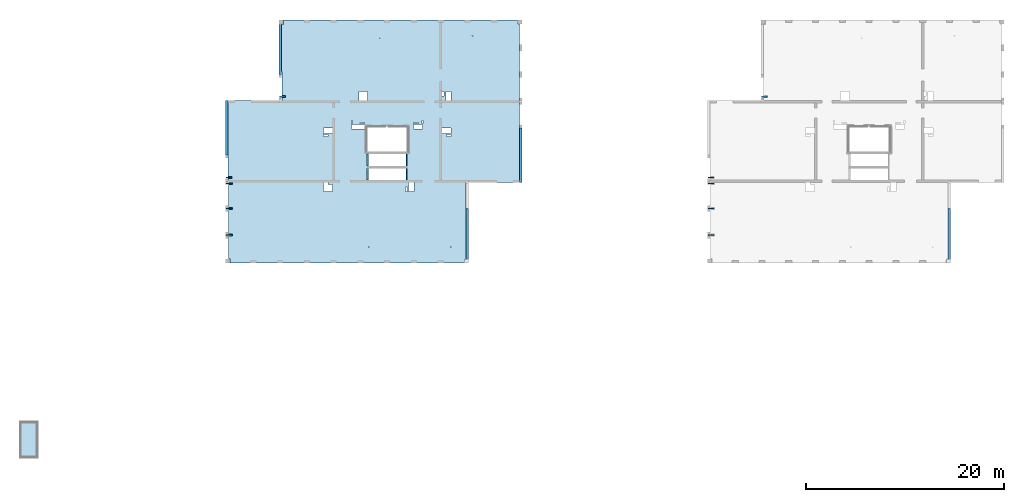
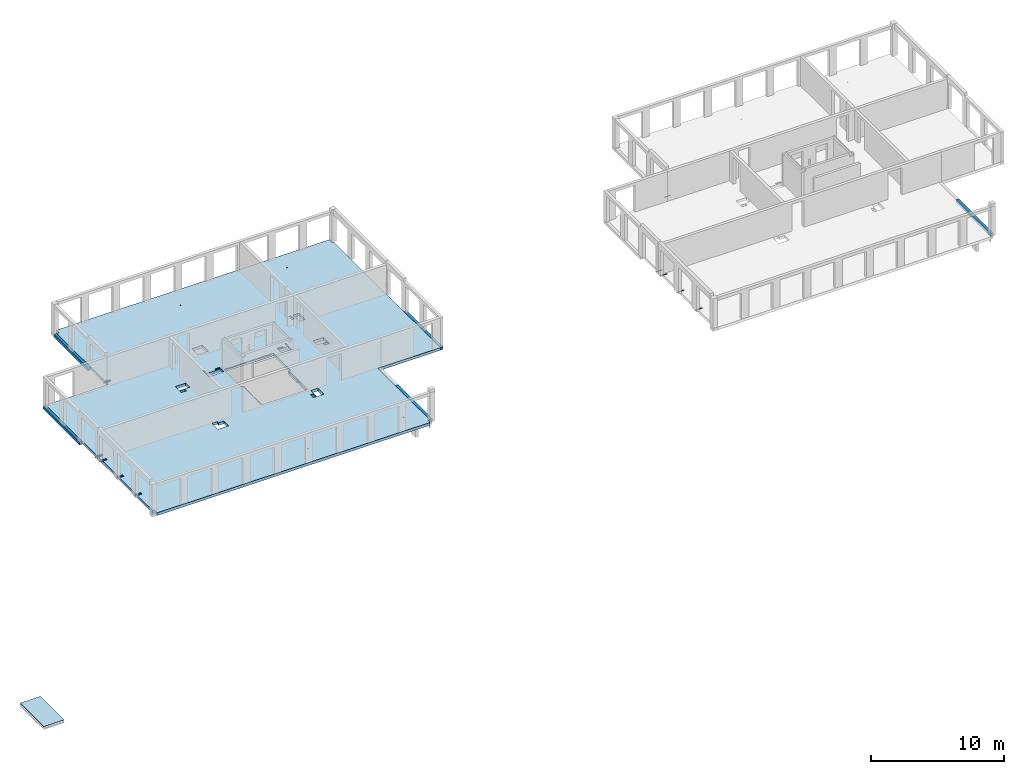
# One storey, part 2 of 12: 10 beams, 7 slabs, 33 openings.
"""IFC2X3 building model written with IfcOpenShell, lengths in millimetres."""

from ifc_helpers import new_model, entity, si_unit, converted_unit, derived_unit, direction, frame, frame_2d, origin, origin_2d_with_axis, place, context, subcontext, project, spatial, polyline, rectangle, circle, outline, extrude, source, transform, mapped, material, layer, layer_set, layer_usage, type_object, type_shapes, element, save


model = new_model("IFC2X3")

# Units and contexts
model_context = context("Model", 3, precision=0.01, world=origin(), true_north=direction((6.12303176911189e-17, 1.0)))
body_context = subcontext(model_context, "Body", "Model", "MODEL_VIEW")
ifc_project = project(units=[si_unit("LENGTHUNIT", "METRE", prefix="MILLI"), si_unit("AREAUNIT", "SQUARE_METRE"), si_unit("VOLUMEUNIT", "CUBIC_METRE"), converted_unit("PLANEANGLEUNIT", "DEGREE", entity("IfcRatioMeasure", 0.0174532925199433), si_unit("PLANEANGLEUNIT", "RADIAN"), dimensions=[0, 0, 0, 0, 0, 0, 0]), si_unit("MASSUNIT", "GRAM", prefix="KILO"), derived_unit("MASSDENSITYUNIT", [(si_unit("MASSUNIT", "GRAM", prefix="KILO"), 1), (si_unit("LENGTHUNIT", "METRE"), -3)]), si_unit("TIMEUNIT", "SECOND"), si_unit("FREQUENCYUNIT", "HERTZ"), si_unit("THERMODYNAMICTEMPERATUREUNIT", "DEGREE_CELSIUS"), derived_unit("THERMALTRANSMITTANCEUNIT", [(si_unit("MASSUNIT", "GRAM", prefix="KILO"), 1), (si_unit("THERMODYNAMICTEMPERATUREUNIT", "KELVIN"), -1), (si_unit("TIMEUNIT", "SECOND"), -3)]), derived_unit("VOLUMETRICFLOWRATEUNIT", [(si_unit("LENGTHUNIT", "METRE"), 3), (si_unit("TIMEUNIT", "SECOND"), -1)]), si_unit("ELECTRICCURRENTUNIT", "AMPERE"), si_unit("ELECTRICVOLTAGEUNIT", "VOLT"), si_unit("POWERUNIT", "WATT"), si_unit("FORCEUNIT", "NEWTON", prefix="KILO"), si_unit("ILLUMINANCEUNIT", "LUX"), si_unit("LUMINOUSFLUXUNIT", "LUMEN"), si_unit("LUMINOUSINTENSITYUNIT", "CANDELA"), derived_unit("USERDEFINED", [(si_unit("MASSUNIT", "GRAM", prefix="KILO"), -1), (si_unit("LENGTHUNIT", "METRE"), -2), (si_unit("TIMEUNIT", "SECOND"), 3), (si_unit("LUMINOUSFLUXUNIT", "LUMEN"), 1)]), derived_unit("LINEARVELOCITYUNIT", [(si_unit("LENGTHUNIT", "METRE"), 1), (si_unit("TIMEUNIT", "SECOND"), -1)]), si_unit("PRESSUREUNIT", "PASCAL"), derived_unit("USERDEFINED", [(si_unit("LENGTHUNIT", "METRE"), -2), (si_unit("MASSUNIT", "GRAM", prefix="KILO"), 1), (si_unit("TIMEUNIT", "SECOND"), -2)])], contexts=[model_context])

# Site, building, storey
site_placement = place(None, origin())
site = spatial("IfcSite", under=ifc_project, at=site_placement, Name="Default", CompositionType="ELEMENT")
building_placement = place(site_placement, origin())
building = spatial("IfcBuilding", under=site, at=building_placement, Name="niet gebruiken", CompositionType="ELEMENT")
storey_placement = place(building_placement, frame((0.0, 0.0, 21510.0)))
storey = spatial("IfcBuildingStorey", under=building, at=storey_placement, Name="07 zevende verdieping", CompositionType="ELEMENT", Elevation=21510.0)

# Beams
ifc_material_1 = material(Name="NLRS_h2_staal")
beam_type_1 = type_object("IfcBeamType", Name="ligger stripstaal RECT_120x10", PredefinedType="BEAM", material=ifc_material_1)
shared_shape_1 = source(origin(), body_context, "Body", "SweptSolid", [
    extrude(rectangle(XDim=599.999999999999, YDim=120.0, at=origin_2d_with_axis()), frame((0.0, 0.0, -5.0), z_axis=(0.0, 0.0, 1.0), x_axis=(-1.0, 0.0, 0.0)), (0.0, 0.0, 1.0), 9.99999999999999),
    extrude(rectangle(XDim=599.999999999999, YDim=120.0, at=origin_2d_with_axis()), frame((0.0, 0.0, -5.0), z_axis=(0.0, 0.0, 1.0), x_axis=(-1.0, 0.0, 0.0)), (0.0, 0.0, 1.0), 9.99999999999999),
])
type_shapes(beam_type_1, [shared_shape_1])
for number, where, name in (
    (1, (75835.0, 31556.0, -115.0), "NLRS_28.11_SF_WPB_stalen ligger stripstaal_gen:ligger stripstaal RECT_120x10"),
    (2, (75835.0, 34256.0, -115.0), "NLRS_28.11_SF_WPB_stalen ligger stripstaal_gen:ligger stripstaal RECT_120x10"),
    (3, (75835.0, 36766.0, -115.0), "NLRS_28.11_SF_WPB_stalen ligger stripstaal_gen:ligger stripstaal RECT_120x10"),
    (4, (27235.0, 31556.0, -115.0), "NLRS_28.11_SF_WPB_stalen ligger stripstaal_gen:ligger stripstaal RECT_120x10"),
    (5, (27235.0, 34256.0, -115.0), "NLRS_28.11_SF_WPB_stalen ligger stripstaal_gen:ligger stripstaal RECT_120x10"),
    (6, (27235.0, 36766.0, -115.0), "NLRS_28.11_SF_WPB_stalen ligger stripstaal_gen:ligger stripstaal RECT_120x10"),
):
    element("IfcBeam", number, at=place(storey_placement, frame(where)), inside=storey, type_object=beam_type_1, material=ifc_material_1, Name=name, ObjectType="ligger stripstaal RECT_120x10", context=body_context, shape_type="MappedRepresentation", body=[
        mapped(shared_shape_1, transform((0.0, 0.0, 0.0), scale=1.0)),
    ])
beam_type_2 = type_object("IfcBeamType", Name="ligger stripstaal RECT_120x10", PredefinedType="BEAM", material=ifc_material_1)
shared_shape_2 = source(origin(), body_context, "Body", "SweptSolid", [
    extrude(rectangle(XDim=120.0, YDim=600.000000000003, at=origin_2d_with_axis()), frame((0.0, 0.0, -5.0), z_axis=(0.0, 0.0, 1.0), x_axis=(0.0, 1.0, 0.0)), (0.0, 0.0, 1.0), 9.99999999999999),
    extrude(rectangle(XDim=120.0, YDim=600.000000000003, at=origin_2d_with_axis()), frame((0.0, 0.0, -5.0), z_axis=(0.0, 0.0, 1.0), x_axis=(0.0, 1.0, 0.0)), (0.0, 0.0, 1.0), 9.99999999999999),
])
type_shapes(beam_type_2, [shared_shape_2])
for number, where, name in (
    (7, (27235.0, 37386.0, -115.0), "NLRS_28.11_SF_WPB_stalen ligger stripstaal_gen:ligger stripstaal RECT_120x10"),
    (8, (75835.0, 37386.0, -115.0), "NLRS_28.11_SF_WPB_stalen ligger stripstaal_gen:ligger stripstaal RECT_120x10"),
    (9, (32635.0, 45521.0, -115.0), "NLRS_28.11_SF_WPB_stalen ligger stripstaal_gen:ligger stripstaal RECT_120x10"),
    (10, (81235.0, 45521.0, -115.0), "NLRS_28.11_SF_WPB_stalen ligger stripstaal_gen:ligger stripstaal RECT_120x10"),
):
    element("IfcBeam", number, at=place(storey_placement, frame(where)), inside=storey, type_object=beam_type_2, material=ifc_material_1, Name=name, ObjectType="ligger stripstaal RECT_120x10", context=body_context, shape_type="MappedRepresentation", body=[
        mapped(shared_shape_2, transform((0.0, 0.0, 0.0), scale=1.0)),
    ])

# Slab, openings
ifc_material_2 = material(Name="NLRS_f2_beton ihwg")
ifc_layer_1 = layer(ifc_material_2, 250.0)
ifc_layer_set_1 = layer_set([ifc_layer_1], Name="Floor:NLRS_23.21_FL_beton ihwg d=250_gen")
ifc_layer_usage_1 = layer_usage(ifc_layer_set_1, "AXIS3", "POSITIVE", 0.0)
slab_1_placement = place(storey_placement, frame((26900.0, 28756.0, -340.0)))
slab_1 = element("IfcSlab", 11, at=slab_1_placement, inside=storey, material=ifc_layer_usage_1, Name="Floor:NLRS_23.21_FL_beton ihwg d=250_gen", ObjectType="Floor:NLRS_23.21_FL_beton ihwg d=250_gen", PredefinedType="FLOOR", context=body_context, shape_type="SweptSolid", body=[
    extrude(outline(polyline([(8994.99996701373, 12250.0), (-14665.0, 12250.0), (-14665.0, 11840.0), (-14805.0, 11840.0), (-14805.0, 4060.0), (-14825.0, 4060.0), (-14825.0, -4150.0), (-9425.0, -4150.0), (-9425.0, -11890.0), (-9265.00003298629, -11890.0), (-9265.00003298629, -12250.0), (14395.0, -12250.0), (14395.0, -11820.0), (14535.0, -11820.0), (14535.0, -4060.0), (14555.0, -4060.0), (14555.0, -1350.0), (14825.0, -1350.0), (14825.0, 4150.0), (9155.0, 4150.0), (9155.0, 7060.0), (9175.0, 7060.0), (9175.0, 11820.0), (8994.99996701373, 11820.0), (8994.99996701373, 12250.0)])), frame((14825.0, 12250.0, 250.0), z_axis=(0.0, 0.0, -1.0), x_axis=(-1.0, 0.0, 0.0)), (0.0, 0.0, 1.0), 249.999999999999),
])
opening_1_placement = place(storey_placement, frame((26900.0, 28756.0, -340.0)))
element("IfcOpeningElement", 12, at=opening_1_placement, cuts=slab_1, ObjectType="Opening", context=body_context, shape_type="SweptSolid", body=[
    extrude(circle(Radius=37.5, at=frame_2d((-7875.0, -10650.0), x_axis=(1.0, 0.0))), frame((14825.0, 12250.0, 250.0), z_axis=(0.0, 0.0, -1.0), x_axis=(-1.0, 0.0, 0.0)), (0.0, 0.0, 1.0), 249.999999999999),
])
opening_2_placement = place(storey_placement, frame((26900.0, 28756.0, -340.0)))
element("IfcOpeningElement", 13, at=opening_2_placement, cuts=slab_1, ObjectType="Opening", context=body_context, shape_type="SweptSolid", body=[
    extrude(circle(Radius=37.5, at=frame_2d((-10075.0, 10650.0), x_axis=(1.0, 0.0))), frame((14825.0, 12250.0, 250.0), z_axis=(0.0, 0.0, -1.0), x_axis=(-1.0, 0.0, 0.0)), (0.0, 0.0, 1.0), 249.999999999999),
])
opening_3_placement = place(storey_placement, frame((26900.0, 28756.0, -340.0)))
element("IfcOpeningElement", 14, at=opening_3_placement, cuts=slab_1, ObjectType="Opening", context=body_context, shape_type="SweptSolid", body=[
    extrude(circle(Radius=37.5, at=frame_2d((-725.0, 10400.0), x_axis=(1.0, 0.0))), frame((14825.0, 12250.0, 250.0), z_axis=(0.0, 0.0, -1.0), x_axis=(-1.0, 0.0, 0.0)), (0.0, 0.0, 1.0), 249.999999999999),
])
opening_4_placement = place(storey_placement, frame((26900.0, 28756.0, -340.0)))
element("IfcOpeningElement", 15, at=opening_4_placement, cuts=slab_1, ObjectType="Opening", context=body_context, shape_type="SweptSolid", body=[
    extrude(circle(Radius=37.5, at=frame_2d((375.0, -10650.0), x_axis=(1.0, 0.0))), frame((14825.0, 12250.0, 250.0), z_axis=(0.0, 0.0, -1.0), x_axis=(-1.0, 0.0, 0.0)), (0.0, 0.0, 1.0), 249.999999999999),
])
opening_5_placement = place(slab_1_placement, origin())
element("IfcOpeningElement", 16, at=opening_5_placement, cuts=slab_1, ObjectType="Opening", context=body_context, shape_type="SweptSolid", body=[
    extrude(rectangle(XDim=110.000000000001, YDim=1220.0, at=origin_2d_with_axis()), frame((14344.9999671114, 10380.0, 210.0)), (0.0, 0.0, 1.0), 39.9999999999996),
])
opening_6_placement = place(slab_1_placement, origin())
element("IfcOpeningElement", 17, at=opening_6_placement, cuts=slab_1, ObjectType="Opening", context=body_context, shape_type="SweptSolid", body=[
    extrude(rectangle(XDim=110.000000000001, YDim=1220.0, at=origin_2d_with_axis()), frame((18255.0, 10380.0, 210.0)), (0.0, 0.0, 1.0), 39.9999999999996),
])
opening_7_placement = place(slab_1_placement, origin())
element("IfcOpeningElement", 18, at=opening_7_placement, cuts=slab_1, ObjectType="Opening", context=body_context, shape_type="SweptSolid", body=[
    extrude(rectangle(XDim=110.000000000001, YDim=1220.0, at=origin_2d_with_axis()), frame((18255.0, 8960.0, 210.0)), (0.0, 0.0, 1.0), 39.9999999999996),
])
opening_8_placement = place(slab_1_placement, origin())
element("IfcOpeningElement", 19, at=opening_8_placement, cuts=slab_1, ObjectType="Opening", context=body_context, shape_type="SweptSolid", body=[
    extrude(rectangle(XDim=110.000000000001, YDim=1220.0, at=origin_2d_with_axis()), frame((14344.9997832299, 8960.0, 210.0)), (0.0, 0.0, 1.0), 39.9999999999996),
])
opening_9_placement = place(slab_1_placement, origin())
element("IfcOpeningElement", 20, at=opening_9_placement, cuts=slab_1, ObjectType="Opening", context=body_context, shape_type="SweptSolid", body=[
    extrude(rectangle(XDim=200.000000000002, YDim=400.000000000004, at=origin_2d_with_axis()), frame((490.0, 2800.0, 220.0), z_axis=(0.0, 0.0, 1.0), x_axis=(0.0, -1.0, 0.0)), (0.0, 0.0, 1.0), 30.0000000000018),
])
opening_10_placement = place(slab_1_placement, origin())
element("IfcOpeningElement", 21, at=opening_10_placement, cuts=slab_1, ObjectType="Opening", context=body_context, shape_type="SweptSolid", body=[
    extrude(rectangle(XDim=200.000000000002, YDim=400.000000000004, at=origin_2d_with_axis()), frame((490.0, 5500.0, 220.0), z_axis=(0.0, 0.0, 1.0), x_axis=(0.0, -1.0, 0.0)), (0.0, 0.0, 1.0), 30.0000000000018),
])
opening_11_placement = place(slab_1_placement, origin())
element("IfcOpeningElement", 22, at=opening_11_placement, cuts=slab_1, ObjectType="Opening", context=body_context, shape_type="SweptSolid", body=[
    extrude(rectangle(XDim=200.000000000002, YDim=400.000000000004, at=origin_2d_with_axis()), frame((490.0, 8000.0, 220.0), z_axis=(0.0, 0.0, 1.0), x_axis=(0.0, -1.0, 0.0)), (0.0, 0.0, 1.0), 30.0000000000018),
])
opening_12_placement = place(slab_1_placement, origin())
element("IfcOpeningElement", 23, at=opening_12_placement, cuts=slab_1, ObjectType="Opening", context=body_context, shape_type="SweptSolid", body=[
    extrude(rectangle(XDim=400.000000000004, YDim=200.000000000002, at=origin_2d_with_axis()), frame((470.0, 8630.0, 220.0)), (0.0, 0.0, 1.0), 30.0000000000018),
])
opening_13_placement = place(slab_1_placement, origin())
element("IfcOpeningElement", 24, at=opening_13_placement, cuts=slab_1, ObjectType="Opening", context=body_context, shape_type="SweptSolid", body=[
    extrude(rectangle(XDim=400.000000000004, YDim=199.999999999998, at=origin_2d_with_axis()), frame((5870.0, 16765.0, 220.0)), (0.0, 0.0, 1.0), 30.0000000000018),
])
opening_14_placement = place(slab_1_placement, origin())
element("IfcOpeningElement", 25, at=opening_14_placement, cuts=slab_1, ObjectType="Opening", context=body_context, shape_type="SweptSolid", body=[
    extrude(rectangle(XDim=900.000000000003, YDim=700.000000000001, at=origin_2d_with_axis()), frame((10325.0, 7550.0, 0.0), z_axis=(0.0, 0.0, 1.0), x_axis=(-1.0, 0.0, 0.0)), (0.0, 0.0, 1.0), 249.999999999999),
])
opening_15_placement = place(slab_1_placement, origin())
element("IfcOpeningElement", 26, at=opening_15_placement, cuts=slab_1, ObjectType="Opening", context=body_context, shape_type="SweptSolid", body=[
    extrude(rectangle(XDim=200.000000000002, YDim=450.000000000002, at=origin_2d_with_axis()), frame((10100.0, 8000.0, 0.0), z_axis=(0.0, 0.0, 1.0), x_axis=(0.0, -1.0, 0.0)), (0.0, 0.0, 1.0), 249.999999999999),
])
opening_16_placement = place(slab_1_placement, origin())
element("IfcOpeningElement", 27, at=opening_16_placement, cuts=slab_1, ObjectType="Opening", context=body_context, shape_type="SweptSolid", body=[
    extrude(rectangle(XDim=450.000000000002, YDim=900.000000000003, at=origin_2d_with_axis()), frame((19430.0, 13720.0, 0.0), z_axis=(0.0, 0.0, 1.0), x_axis=(0.0, -1.0, 0.0)), (0.0, 0.0, 1.0), 249.999999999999),
])
opening_17_placement = place(slab_1_placement, origin())
element("IfcOpeningElement", 28, at=opening_17_placement, cuts=slab_1, ObjectType="Opening", context=body_context, shape_type="SweptSolid", body=[
    extrude(rectangle(XDim=900.000000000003, YDim=900.000000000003, at=origin_2d_with_axis()), frame((13885.0, 16850.0, 0.0), z_axis=(0.0, 0.0, 1.0), x_axis=(-1.0, 0.0, 0.0)), (0.0, 0.0, 1.0), 249.999999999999),
])
opening_18_placement = place(slab_1_placement, origin())
element("IfcOpeningElement", 29, at=opening_18_placement, cuts=slab_1, ObjectType="Opening", context=body_context, shape_type="SweptSolid", body=[
    extrude(rectangle(XDim=900.000000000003, YDim=600.000000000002, at=origin_2d_with_axis()), frame((10325.0, 13330.0, 0.0), z_axis=(0.0, 0.0, 1.0), x_axis=(-1.0, 0.0, 0.0)), (0.0, 0.0, 1.0), 249.999999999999),
])
opening_19_placement = place(slab_1_placement, origin())
element("IfcOpeningElement", 30, at=opening_19_placement, cuts=slab_1, ObjectType="Opening", context=body_context, shape_type="SweptSolid", body=[
    extrude(rectangle(XDim=900.000000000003, YDim=499.999999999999, at=origin_2d_with_axis()), frame((22475.0, 16850.0, 0.0), z_axis=(0.0, 0.0, 1.0), x_axis=(0.0, 1.0, 0.0)), (0.0, 0.0, 1.0), 249.999999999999),
])
opening_20_placement = place(slab_1_placement, origin())
element("IfcOpeningElement", 31, at=opening_20_placement, cuts=slab_1, ObjectType="Opening", context=body_context, shape_type="SweptSolid", body=[
    extrude(rectangle(XDim=899.999999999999, YDim=600.000000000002, at=origin_2d_with_axis()), frame((18729.9818996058, 7650.0, 0.0), z_axis=(0.0, 0.0, 1.0), x_axis=(0.0, 1.0, 0.0)), (0.0, 0.0, 1.0), 249.999999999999),
])
opening_21_placement = place(slab_1_placement, origin())
element("IfcOpeningElement", 32, at=opening_21_placement, cuts=slab_1, ObjectType="Opening", context=body_context, shape_type="SweptSolid", body=[
    extrude(rectangle(XDim=1760.00000000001, YDim=23.0000000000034, at=origin_2d_with_axis()), frame((17354.999849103, 13751.5, 180.0)), (0.0, 0.0, 1.0), 39.9999999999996),
])
opening_22_placement = place(slab_1_placement, origin())
element("IfcOpeningElement", 33, at=opening_22_placement, cuts=slab_1, ObjectType="Opening", context=body_context, shape_type="SweptSolid", body=[
    extrude(rectangle(XDim=1760.00000000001, YDim=23.0000000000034, at=origin_2d_with_axis()), frame((15244.9998491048, 13751.5, 180.0)), (0.0, 0.0, 1.0), 39.9999999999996),
])
opening_23_placement = place(slab_1_placement, origin())
element("IfcOpeningElement", 34, at=opening_23_placement, cuts=slab_1, ObjectType="Opening", context=body_context, shape_type="SweptSolid", body=[
    extrude(rectangle(XDim=100.000000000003, YDim=490.000000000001, at=origin_2d_with_axis()), frame((19225.0, 14090.0, 0.0), z_axis=(0.0, 0.0, 1.0), x_axis=(0.0, -1.0, 0.0)), (0.0, 0.0, 1.0), 249.999999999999),
])
opening_24_placement = place(slab_1_placement, origin())
element("IfcOpeningElement", 35, at=opening_24_placement, cuts=slab_1, ObjectType="Opening", context=body_context, shape_type="SweptSolid", body=[
    extrude(rectangle(XDim=100.000000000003, YDim=340.000000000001, at=origin_2d_with_axis()), frame((19865.0, 14210.0, 0.0), z_axis=(0.0, 0.0, 1.0), x_axis=(-1.0, 0.0, 0.0)), (0.0, 0.0, 1.0), 249.999999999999),
])
opening_25_placement = place(slab_1_placement, origin())
element("IfcOpeningElement", 36, at=opening_25_placement, cuts=slab_1, ObjectType="Opening", context=body_context, shape_type="SweptSolid", body=[
    extrude(rectangle(XDim=100.000000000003, YDim=440.000000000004, at=origin_2d_with_axis()), frame((13805.0, 14090.0, 0.0), z_axis=(0.0, 0.0, 1.0), x_axis=(0.0, -1.0, 0.0)), (0.0, 0.0, 1.0), 249.999999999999),
])
opening_26_placement = place(slab_1_placement, origin())
element("IfcOpeningElement", 37, at=opening_26_placement, cuts=slab_1, ObjectType="Opening", context=body_context, shape_type="SweptSolid", body=[
    extrude(rectangle(XDim=100.000000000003, YDim=340.000000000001, at=origin_2d_with_axis()), frame((12755.0, 14210.0, 0.0), z_axis=(0.0, 0.0, 1.0), x_axis=(-1.0, 0.0, 0.0)), (0.0, 0.0, 1.0), 249.999999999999),
])
opening_27_placement = place(slab_1_placement, origin())
element("IfcOpeningElement", 38, at=opening_27_placement, cuts=slab_1, ObjectType="Opening", context=body_context, shape_type="SweptSolid", body=[
    extrude(rectangle(XDim=220.000000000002, YDim=450.000000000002, at=origin_2d_with_axis()), frame((21935.0, 17075.0, 0.0), z_axis=(0.0, 0.0, 1.0), x_axis=(-1.0, 0.0, 0.0)), (0.0, 0.0, 1.0), 249.999999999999),
])
opening_28_placement = place(slab_1_placement, origin())
element("IfcOpeningElement", 39, at=opening_28_placement, cuts=slab_1, ObjectType="Opening", context=body_context, shape_type="SweptSolid", body=[
    extrude(rectangle(XDim=230.0, YDim=450.000000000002, at=origin_2d_with_axis()), frame((10100.0000865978, 12845.0002270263, 0.0), z_axis=(0.0, 0.0, 1.0), x_axis=(0.0, -1.0, 0.0)), (0.0, 0.0, 1.0), 249.999999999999),
])
opening_29_placement = place(slab_1_placement, origin())
element("IfcOpeningElement", 40, at=opening_29_placement, cuts=slab_1, ObjectType="Opening", context=body_context, shape_type="SweptSolid", body=[
    extrude(rectangle(XDim=220.000000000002, YDim=450.000000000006, at=origin_2d_with_axis()), frame((18240.0, 7425.0, 0.0)), (0.0, 0.0, 1.0), 249.999999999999),
])
opening_30_placement = place(slab_1_placement, origin())
element("IfcOpeningElement", 41, at=opening_30_placement, cuts=slab_1, ObjectType="Opening", context=body_context, shape_type="SweptSolid", body=[
    extrude(rectangle(XDim=440.000000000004, YDim=1320.0, at=origin_2d_with_axis()), frame((13365.0, 13720.0, 0.0), z_axis=(0.0, 0.0, 1.0), x_axis=(0.0, -1.0, 0.0)), (0.0, 0.0, 1.0), 249.999999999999),
])
opening_31_placement = place(slab_1_placement, origin())
element("IfcOpeningElement", 42, at=opening_31_placement, cuts=slab_1, ObjectType="Opening", context=body_context, shape_type="SweptSolid", body=[
    extrude(rectangle(XDim=900.000000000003, YDim=600.000000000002, at=origin_2d_with_axis()), frame((22275.0, 13330.0, 0.0), z_axis=(0.0, 0.0, 1.0), x_axis=(-1.0, 0.0, 0.0)), (0.0, 0.0, 1.0), 249.999999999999),
])
opening_32_placement = place(slab_1_placement, origin())
element("IfcOpeningElement", 43, at=opening_32_placement, cuts=slab_1, ObjectType="Opening", context=body_context, shape_type="SweptSolid", body=[
    extrude(rectangle(XDim=220.000000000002, YDim=450.000000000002, at=origin_2d_with_axis()), frame((22500.0, 12840.0, 0.0), z_axis=(0.0, 0.0, 1.0), x_axis=(0.0, -1.0, 0.0)), (0.0, 0.0, 1.0), 249.999999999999),
])
opening_33_placement = place(slab_1_placement, frame((16300.0, 10378.75, 250.0)))
element("IfcOpeningElement", 44, at=opening_33_placement, cuts=slab_1, Name="Floor:NLRS_23.21_FL_beton ihwg d=250_gen:2", ObjectType="Opening", context=body_context, shape_type="SweptSolid", body=[
    extrude(outline(polyline([(-3361.25000000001, -2135.00001644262), (-751.250000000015, -2135.00001644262), (-751.250000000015, -1899.99998355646), (608.750000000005, -1899.99998355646), (608.750000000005, -2000.00001644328), (808.750000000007, -2000.00001644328), (808.750000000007, -1899.99998355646), (2028.75, -1899.99998355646), (2028.75, 1900.00001644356), (808.749999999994, 1900.00001644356), (808.749999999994, 1999.99998355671), (608.749999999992, 1999.99998355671), (608.749999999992, 1900.00001644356), (-751.250000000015, 1900.00001644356), (-751.250000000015, 2134.99998355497), (-3361.25000000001, 2134.99998355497), (-3361.25000000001, -2135.00001644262)])), frame((0.0, 0.0, 0.0), z_axis=(0.0, 0.0, -1.0), x_axis=(0.0, -1.0, 0.0)), (0.0, 0.0, 1.0), 249.999999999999),
])

# Slabs
ifc_layer_usage_2 = layer_usage(ifc_layer_set_1, "AXIS3", "POSITIVE", 0.0)
slab_2_placement = place(storey_placement, origin())
element("IfcSlab", 45, at=slab_2_placement, inside=storey, material=ifc_layer_usage_2, Name="Floor:NLRS_23.21_FL_beton ihwg d=250_gen", ObjectType="Floor:NLRS_23.21_FL_beton ihwg d=250_gen", PredefinedType="FLOOR", context=body_context, shape_type="SweptSolid", body=[
    extrude(rectangle(XDim=5140.00000000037, YDim=250.000065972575, at=origin_2d_with_axis()), frame((99875.0, 31686.0, -90.0), z_axis=(0.0, 0.0, -1.0), x_axis=(0.0, 1.0, 0.0)), (0.0, 0.0, 1.0), 249.999999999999),
])
ifc_layer_usage_3 = layer_usage(ifc_layer_set_1, "AXIS3", "POSITIVE", 0.0)
slab_3_placement = place(storey_placement, origin())
element("IfcSlab", 46, at=slab_3_placement, inside=storey, material=ifc_layer_usage_3, Name="Floor:NLRS_23.21_FL_beton ihwg d=250_gen", ObjectType="Floor:NLRS_23.21_FL_beton ihwg d=250_gen", PredefinedType="FLOOR", context=body_context, shape_type="SweptSolid", body=[
    extrude(rectangle(XDim=5140.00000000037, YDim=250.000065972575, at=origin_2d_with_axis()), frame((51275.0, 31686.0, -90.0), z_axis=(0.0, 0.0, -1.0), x_axis=(0.0, 1.0, 0.0)), (0.0, 0.0, 1.0), 249.999999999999),
])
ifc_layer_usage_4 = layer_usage(ifc_layer_set_1, "AXIS3", "POSITIVE", 0.0)
slab_4_placement = place(storey_placement, origin())
element("IfcSlab", 47, at=slab_4_placement, inside=storey, material=ifc_layer_usage_4, Name="Floor:NLRS_23.21_FL_beton ihwg d=250_gen", ObjectType="Floor:NLRS_23.21_FL_beton ihwg d=250_gen", PredefinedType="FLOOR", context=body_context, shape_type="SweptSolid", body=[
    extrude(rectangle(XDim=5089.99999999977, YDim=249.999999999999, at=frame_2d((-4.32009983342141e-12, -2.16715534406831e-12), x_axis=(1.0, 0.0))), frame((32425.0, 50301.0, -90.0), z_axis=(0.0, 0.0, -1.0), x_axis=(0.0, 1.0, 0.0)), (0.0, 0.0, 1.0), 249.999999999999),
])
ifc_layer_usage_5 = layer_usage(ifc_layer_set_1, "AXIS3", "POSITIVE", 0.0)
slab_5_placement = place(storey_placement, origin())
element("IfcSlab", 48, at=slab_5_placement, inside=storey, material=ifc_layer_usage_5, Name="Floor:NLRS_23.21_FL_beton ihwg d=250_gen", ObjectType="Floor:NLRS_23.21_FL_beton ihwg d=250_gen", PredefinedType="FLOOR", context=body_context, shape_type="SweptSolid", body=[
    extrude(rectangle(XDim=5499.99999999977, YDim=250.000000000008, at=frame_2d((0.0, 2.16715534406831e-12), x_axis=(1.0, 0.0))), frame((27025.0, 42406.0, -90.0), z_axis=(0.0, 0.0, -1.0), x_axis=(0.0, 1.0, 0.0)), (0.0, 0.0, 1.0), 249.999999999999),
])
ifc_layer_usage_6 = layer_usage(ifc_layer_set_1, "AXIS3", "POSITIVE", 0.0)
slab_6_placement = place(storey_placement, origin())
element("IfcSlab", 49, at=slab_6_placement, inside=storey, material=ifc_layer_usage_6, Name="Floor:NLRS_23.21_FL_beton ihwg d=250_gen", ObjectType="Floor:NLRS_23.21_FL_beton ihwg d=250_gen", PredefinedType="FLOOR", context=body_context, shape_type="SweptSolid", body=[
    extrude(rectangle(XDim=5500.00000000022, YDim=250.000000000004, at=frame_2d((0.0, 4.33431068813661e-12), x_axis=(1.0, 0.0))), frame((56675.0, 39606.0, -90.0), z_axis=(0.0, 0.0, -1.0), x_axis=(0.0, 1.0, 0.0)), (0.0, 0.0, 1.0), 249.999999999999),
])
ifc_material_3 = material(Name="NLRS_h2_roostervloer staal")
ifc_layer_2 = layer(ifc_material_3, 30.0)
ifc_layer_set_2 = layer_set([ifc_layer_2], Name="Floor:NLRS_23.11_FL_stalen roostervloer d=30_gen")
ifc_layer_usage_7 = layer_usage(ifc_layer_set_2, "AXIS3", "POSITIVE", 0.0)
slab_7_placement = place(storey_placement, origin())
element("IfcSlab", 50, at=slab_7_placement, inside=storey, material=ifc_layer_usage_7, Name="Floor:NLRS_23.11_FL_stalen roostervloer d=30_gen", ObjectType="Floor:NLRS_23.11_FL_stalen roostervloer d=30_gen", PredefinedType="FLOOR", context=body_context, shape_type="SweptSolid", body=[
    extrude(rectangle(XDim=3560.00000000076, YDim=1759.99999999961, at=frame_2d((1.02318153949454e-12, 5.11590769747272e-13), x_axis=(1.0, 0.0))), frame((7075.0, 10936.0, -385.0), z_axis=(0.0, 0.0, -1.0), x_axis=(0.0, 1.0, 0.0)), (0.0, 0.0, 1.0), 30.0000000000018),
])

save(model, "model.ifc")
